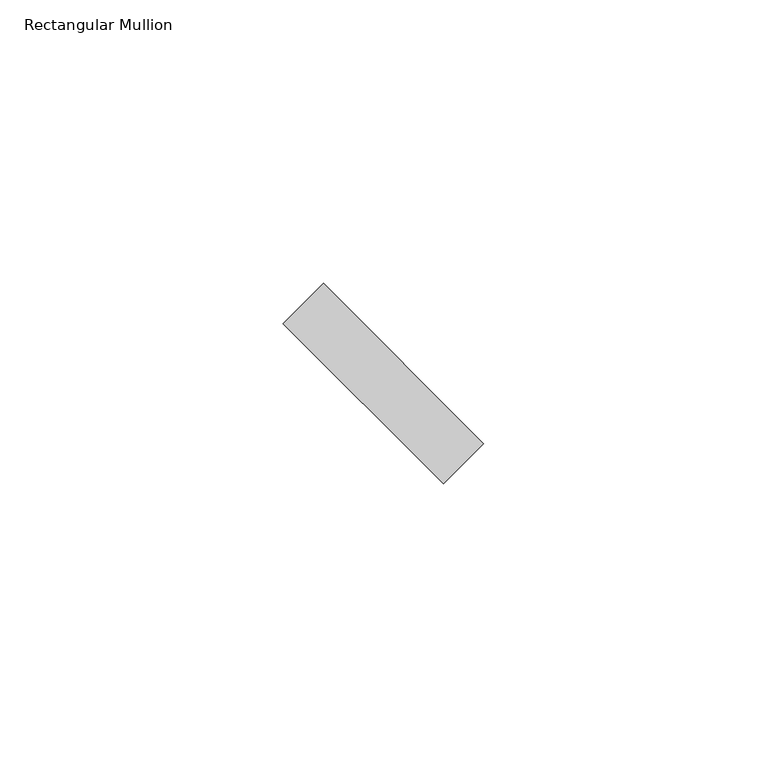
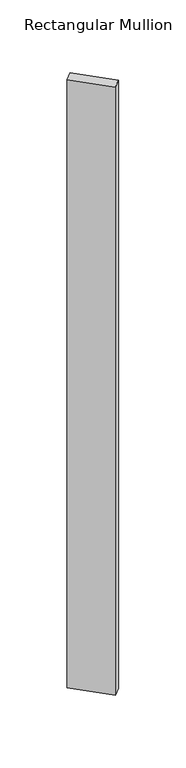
"""IFC4 building model written with IfcOpenShell, lengths in millimetres: member geometry, Rectangular Mullion : 1x4cm 45°."""

from ifc_helpers import new_model, si_unit, frame, origin, place, context, project, spatial, polyline, outline, extrude, source, transform, mapped, element, save


def rectangular_mullion_0fb44773(model_context):
    return source(origin(), model_context, "Body", "SweptSolid", [
        extrude(outline(polyline([(-10.6066017, 17.6776695), (17.6776695, -10.6066017), (10.6066017, -17.6776695), (-17.6776695, 10.6066017), (-10.6066017, 17.6776695)])), frame((0.0, 0.0, -591.2277107), z_axis=(0.0, 0.0, 1.0), x_axis=(1.0, 0.0, 0.0)), (0.0, 0.0, 1.0), 591.2277107),
    ])


if __name__ == "__main__":
    model = new_model("IFC4")
    model_context = context("Model", 3, world=origin())
    ifc_project = project(units=[si_unit("LENGTHUNIT", "METRE", prefix="MILLI")], contexts=[model_context])
    site = spatial("IfcSite", under=ifc_project)
    building = spatial("IfcBuilding", under=site)
    placement = place(None, origin())
    rectangular_mullion_shape = rectangular_mullion_0fb44773(model_context)
    element("IfcMember", 1, ObjectType="Rectangular Mullion : 1x4cm 45°", at=placement, inside=building, context=model_context, shape_type="MappedRepresentation", body=[
        mapped(rectangular_mullion_shape, transform((0.0, 0.0, 0.0), x_axis=(1.0, 0.0, 0.0), y_axis=(0.0, 1.0, 0.0), z_axis=(0.0, 0.0, 1.0))),
    ])
    save(model, "model.ifc")
